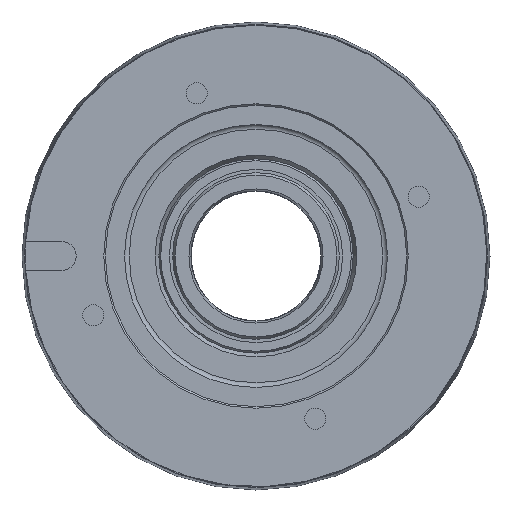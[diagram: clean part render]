
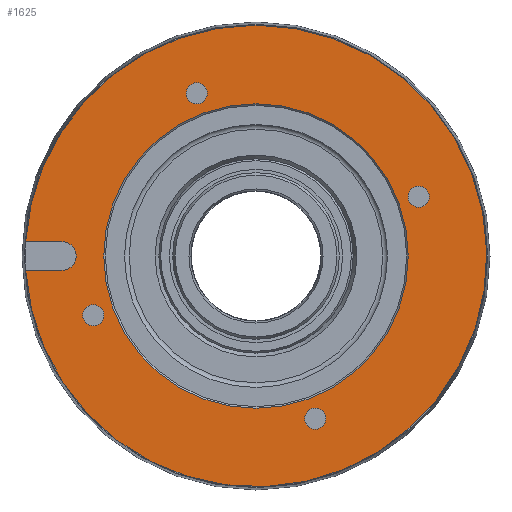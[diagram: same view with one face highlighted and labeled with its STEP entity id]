
A CAD part, left-side view. The second image highlights one B-rep face of the part: STEP entity #1625.
In plain terms, the highlighted planar face has unit normal (-1, 0, 0).
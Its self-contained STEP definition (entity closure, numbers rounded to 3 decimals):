
#3 = DIRECTION ( 'NONE',  ( 0., 0., 1. ) ) ;
#6 = FACE_OUTER_BOUND ( 'NONE', #964, .T. ) ;
#14 = CARTESIAN_POINT ( 'NONE',  ( 0., 30.3, 2.25 ) ) ;
#69 = CARTESIAN_POINT ( 'NONE',  ( 0., 30.3, -2.25 ) ) ;
#78 = AXIS2_PLACEMENT_3D ( 'NONE', #1243, #352, #1387 ) ;
#105 = DIRECTION ( 'NONE',  ( -1., 0., 0. ) ) ;
#114 = EDGE_CURVE ( 'NONE', #1490, #1490, #1225, .T. ) ;
#118 = VERTEX_POINT ( 'NONE', #14 ) ;
#143 = AXIS2_PLACEMENT_3D ( 'NONE', #1647, #452, #1518 ) ;
#153 = DIRECTION ( 'NONE',  ( 0., 0., 1. ) ) ;
#154 = DIRECTION ( 'NONE',  ( -1., 0., 0. ) ) ;
#226 = EDGE_CURVE ( 'NONE', #1470, #740, #634, .T. ) ;
#239 = VECTOR ( 'NONE', #806, 1000. ) ;
#248 = ORIENTED_EDGE ( 'NONE', *, *, #114, .F. ) ;
#266 = ORIENTED_EDGE ( 'NONE', *, *, #226, .F. ) ;
#286 = VERTEX_POINT ( 'NONE', #342 ) ;
#290 = ORIENTED_EDGE ( 'NONE', *, *, #906, .T. ) ;
#342 = CARTESIAN_POINT ( 'NONE',  ( 0., 35.93, 2.25 ) ) ;
#352 = DIRECTION ( 'NONE',  ( -1., 0., 0. ) ) ;
#363 = CARTESIAN_POINT ( 'NONE',  ( 0., 25.372, -7.585 ) ) ;
#411 = DIRECTION ( 'NONE',  ( 0., 0., 1. ) ) ;
#438 = EDGE_LOOP ( 'NONE', ( #248 ) ) ;
#452 = DIRECTION ( 'NONE',  ( -1., 0., 0. ) ) ;
#488 = CARTESIAN_POINT ( 'NONE',  ( 0., 35.93, -2.25 ) ) ;
#498 = FACE_BOUND ( 'NONE', #438, .T. ) ;
#505 = ORIENTED_EDGE ( 'NONE', *, *, #1698, .F. ) ;
#509 = CARTESIAN_POINT ( 'NONE',  ( 0., 30.3, 2.25 ) ) ;
#519 = CIRCLE ( 'NONE', #1372, 1.65 ) ;
#533 = DIRECTION ( 'NONE',  ( 0., 0., 1. ) ) ;
#539 = CARTESIAN_POINT ( 'NONE',  ( 0., 30.3, 0. ) ) ;
#552 = DIRECTION ( 'NONE',  ( -1., 0., 0. ) ) ;
#563 = FACE_BOUND ( 'NONE', #819, .T. ) ;
#568 = ORIENTED_EDGE ( 'NONE', *, *, #617, .F. ) ;
#592 = CARTESIAN_POINT ( 'NONE',  ( 0., 9.235, 27.022 ) ) ;
#617 = EDGE_CURVE ( 'NONE', #118, #286, #779, .T. ) ;
#634 = LINE ( 'NONE', #1258, #239 ) ;
#639 = CIRCLE ( 'NONE', #821, 23.75 ) ;
#688 = FACE_BOUND ( 'NONE', #742, .T. ) ;
#719 = VERTEX_POINT ( 'NONE', #1610 ) ;
#740 = VERTEX_POINT ( 'NONE', #69 ) ;
#742 = EDGE_LOOP ( 'NONE', ( #1808 ) ) ;
#753 = VERTEX_POINT ( 'NONE', #1472 ) ;
#761 = EDGE_LOOP ( 'NONE', ( #505 ) ) ;
#779 = LINE ( 'NONE', #509, #1254 ) ;
#806 = DIRECTION ( 'NONE',  ( 0., -1., 0. ) ) ;
#819 = EDGE_LOOP ( 'NONE', ( #1327 ) ) ;
#821 = AXIS2_PLACEMENT_3D ( 'NONE', #1765, #1760, #3 ) ;
#871 = PLANE ( 'NONE',  #943 ) ;
#906 = EDGE_CURVE ( 'NONE', #1470, #286, #1662, .T. ) ;
#938 = CARTESIAN_POINT ( 'NONE',  ( 0., -25.372, 9.235 ) ) ;
#940 = CARTESIAN_POINT ( 'NONE',  ( 0., -25.372, 10.885 ) ) ;
#943 = AXIS2_PLACEMENT_3D ( 'NONE', #1286, #1425, #533 ) ;
#954 = VERTEX_POINT ( 'NONE', #592 ) ;
#964 = EDGE_LOOP ( 'NONE', ( #568, #1706, #266, #290 ) ) ;
#1055 = ORIENTED_EDGE ( 'NONE', *, *, #1763, .F. ) ;
#1089 = CARTESIAN_POINT ( 'NONE',  ( 0., 25.372, -9.235 ) ) ;
#1153 = CARTESIAN_POINT ( 'NONE',  ( 0., 0., 0. ) ) ;
#1217 = DIRECTION ( 'NONE',  ( 0., 0., 1. ) ) ;
#1225 = CIRCLE ( 'NONE', #1478, 1.65 ) ;
#1243 = CARTESIAN_POINT ( 'NONE',  ( 0., 9.235, 25.372 ) ) ;
#1254 = VECTOR ( 'NONE', #1813, 1000. ) ;
#1258 = CARTESIAN_POINT ( 'NONE',  ( 0., 40., -2.25 ) ) ;
#1268 = EDGE_CURVE ( 'NONE', #1315, #1315, #519, .T. ) ;
#1286 = CARTESIAN_POINT ( 'NONE',  ( 0., 0., 0. ) ) ;
#1298 = FACE_BOUND ( 'NONE', #761, .T. ) ;
#1315 = VERTEX_POINT ( 'NONE', #363 ) ;
#1327 = ORIENTED_EDGE ( 'NONE', *, *, #1899, .F. ) ;
#1372 = AXIS2_PLACEMENT_3D ( 'NONE', #1089, #1781, #153 ) ;
#1387 = DIRECTION ( 'NONE',  ( 0., 0., 1. ) ) ;
#1425 = DIRECTION ( 'NONE',  ( -1., 0., 0. ) ) ;
#1470 = VERTEX_POINT ( 'NONE', #488 ) ;
#1472 = CARTESIAN_POINT ( 'NONE',  ( 0., 0., 23.75 ) ) ;
#1478 = AXIS2_PLACEMENT_3D ( 'NONE', #938, #154, #1217 ) ;
#1490 = VERTEX_POINT ( 'NONE', #940 ) ;
#1518 = DIRECTION ( 'NONE',  ( 0., 0., 1. ) ) ;
#1584 = EDGE_CURVE ( 'NONE', #740, #118, #1827, .T. ) ;
#1610 = CARTESIAN_POINT ( 'NONE',  ( 0., -9.235, -23.722 ) ) ;
#1613 = CIRCLE ( 'NONE', #78, 1.65 ) ;
#1625 = ADVANCED_FACE ( 'NONE', ( #1775, #498, #563, #688, #6, #1298 ), #871, .T. ) ;
#1647 = CARTESIAN_POINT ( 'NONE',  ( 0., -9.235, -25.372 ) ) ;
#1655 = CIRCLE ( 'NONE', #143, 1.65 ) ;
#1662 = CIRCLE ( 'NONE', #1815, 36. ) ;
#1698 = EDGE_CURVE ( 'NONE', #753, #753, #639, .T. ) ;
#1706 = ORIENTED_EDGE ( 'NONE', *, *, #1584, .F. ) ;
#1760 = DIRECTION ( 'NONE',  ( -1., 0., 0. ) ) ;
#1763 = EDGE_CURVE ( 'NONE', #954, #954, #1613, .T. ) ;
#1765 = CARTESIAN_POINT ( 'NONE',  ( 0., 0., 0. ) ) ;
#1775 = FACE_BOUND ( 'NONE', #1876, .T. ) ;
#1781 = DIRECTION ( 'NONE',  ( -1., 0., 0. ) ) ;
#1808 = ORIENTED_EDGE ( 'NONE', *, *, #1268, .F. ) ;
#1813 = DIRECTION ( 'NONE',  ( 0., 1., 0. ) ) ;
#1815 = AXIS2_PLACEMENT_3D ( 'NONE', #1153, #105, #411 ) ;
#1827 = CIRCLE ( 'NONE', #1904, 2.25 ) ;
#1870 = DIRECTION ( 'NONE',  ( 0., 0., 1. ) ) ;
#1876 = EDGE_LOOP ( 'NONE', ( #1055 ) ) ;
#1899 = EDGE_CURVE ( 'NONE', #719, #719, #1655, .T. ) ;
#1904 = AXIS2_PLACEMENT_3D ( 'NONE', #539, #552, #1870 ) ;
